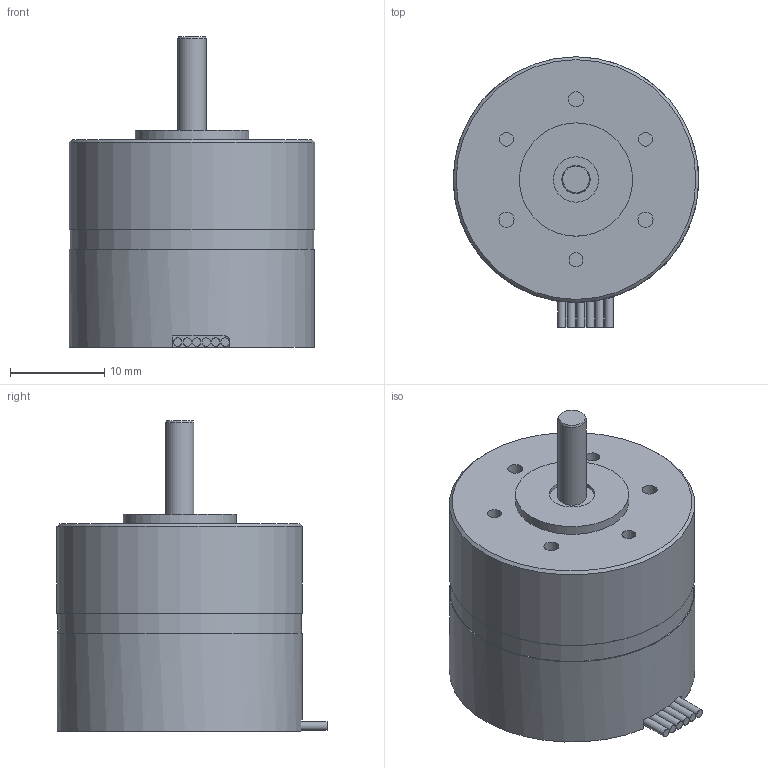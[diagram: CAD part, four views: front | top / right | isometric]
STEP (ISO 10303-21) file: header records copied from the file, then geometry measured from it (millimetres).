
FILE_DESCRIPTION(/* description */ (''),/* implementation_level */ '2;1');
FILE_NAME(/* name */ '2622S_B_SC.stp',/* time_stamp */ '2017-07-31T10:39:01+02:00',/* author */ ('DR. FRITZ FAULHABER GmbH & Co. KG'),/* organization */ ('DR. FRITZ FAULHABER GmbH & Co. KG'),/* preprocessor_version */ 'ST-DEVELOPER v16',/* originating_system */ 'SIEMENS PLM Software NX 10.0',/* authorisation */ '');
FILE_SCHEMA (('AUTOMOTIVE_DESIGN { 1 0 10303 214 3 1 1 1 }'));
Length unit declared in the file: millimetre
Products named in the file (1): Alle_Motoren
Bounding box: 26 x 28.6 x 32.9 mm (x, y, z)
Volume: 11803.3 mm3; surface area: 3174.1 mm2
Topology: 1 solids, 1 shells, 56 faces, 128 edges, 85 vertices
Faces by surface type: plane 29, cylinder 25, cone 2
Full cylindrical faces by diameter (mm): 1.48 x3, 1.6 x3, 3 x1, 4.8 x1, 12 x1, 25.8 x1, 26 x2
Entity records: 1602 total; most frequent: CARTESIAN_POINT 334, DIRECTION 275, ORIENTED_EDGE 222, EDGE_CURVE 111, AXIS2_PLACEMENT_3D 110, VERTEX_POINT 82, EDGE_LOOP 81, ADVANCED_FACE 56
